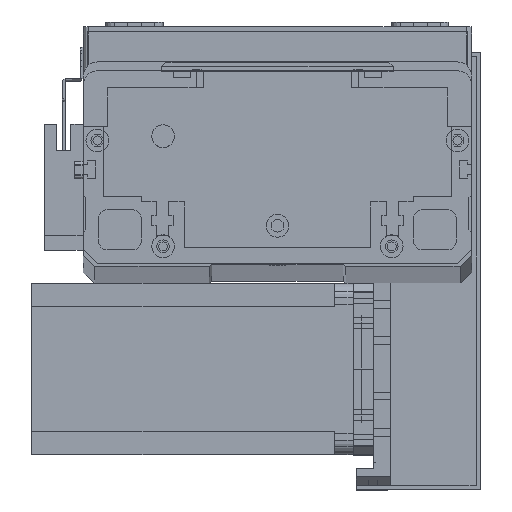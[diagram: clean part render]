
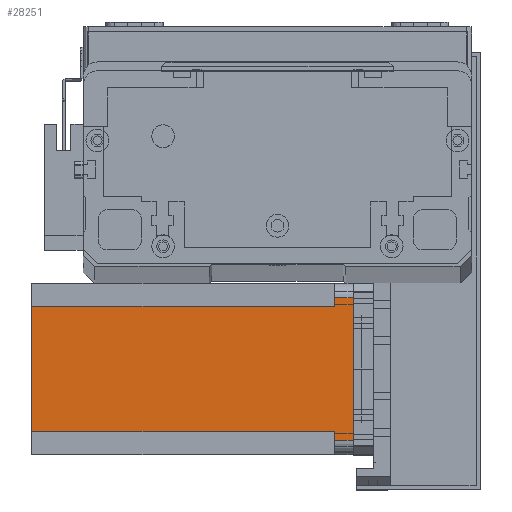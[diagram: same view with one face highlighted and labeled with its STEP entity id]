
A CAD part, top view. The second image highlights one B-rep face of the part: STEP entity #28251.
In plain terms, the highlighted planar face has unit normal (0, 0, 1) as drawn and (0, -1, 0) by its records, which use the part's own axes.
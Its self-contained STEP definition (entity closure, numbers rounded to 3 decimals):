
#254 = VECTOR ( 'NONE', #15675, 1000. ) ;
#573 = CARTESIAN_POINT ( 'NONE',  ( 5., 0., -112.5 ) ) ;
#1474 = FACE_OUTER_BOUND ( 'NONE', #23150, .T. ) ;
#1720 = CARTESIAN_POINT ( 'NONE',  ( 5., 0., 0. ) ) ;
#1776 = CARTESIAN_POINT ( 'NONE',  ( 5., 0., -6.5 ) ) ;
#1839 = VECTOR ( 'NONE', #20627, 1000. ) ;
#1898 = LINE ( 'NONE', #573, #21252 ) ;
#2209 = VERTEX_POINT ( 'NONE', #1776 ) ;
#2470 = CARTESIAN_POINT ( 'NONE',  ( 52., 0., -6.5 ) ) ;
#2825 = DIRECTION ( 'NONE',  ( 0., -1., 0. ) ) ;
#3842 = CARTESIAN_POINT ( 'NONE',  ( 55., 0., 0. ) ) ;
#4788 = LINE ( 'NONE', #28708, #24134 ) ;
#5938 = LINE ( 'NONE', #30173, #254 ) ;
#5982 = CARTESIAN_POINT ( 'NONE',  ( 8., 0., -6.5 ) ) ;
#6088 = EDGE_CURVE ( 'NONE', #27428, #2209, #1898, .T. ) ;
#6349 = CARTESIAN_POINT ( 'NONE',  ( 8., 0., -6.5 ) ) ;
#7984 = EDGE_CURVE ( 'NONE', #30353, #18080, #5938, .T. ) ;
#8070 = ORIENTED_EDGE ( 'NONE', *, *, #6088, .T. ) ;
#8272 = LINE ( 'NONE', #5982, #1839 ) ;
#9194 = DIRECTION ( 'NONE',  ( 1., 0., 0. ) ) ;
#10617 = VERTEX_POINT ( 'NONE', #2470 ) ;
#10884 = DIRECTION ( 'NONE',  ( 1., 0., 0. ) ) ;
#11363 = ORIENTED_EDGE ( 'NONE', *, *, #20074, .T. ) ;
#11839 = CARTESIAN_POINT ( 'NONE',  ( 52., 0., -112.5 ) ) ;
#12020 = VECTOR ( 'NONE', #10884, 1000. ) ;
#12626 = ORIENTED_EDGE ( 'NONE', *, *, #26775, .F. ) ;
#12686 = EDGE_CURVE ( 'NONE', #10617, #26831, #24117, .T. ) ;
#13447 = CARTESIAN_POINT ( 'NONE',  ( 8., 0., -112.5 ) ) ;
#13845 = ORIENTED_EDGE ( 'NONE', *, *, #12686, .F. ) ;
#14102 = CARTESIAN_POINT ( 'NONE',  ( 0., 0., 0. ) ) ;
#14501 = LINE ( 'NONE', #14102, #20155 ) ;
#15675 = DIRECTION ( 'NONE',  ( 0., 0., 1. ) ) ;
#17365 = CARTESIAN_POINT ( 'NONE',  ( 0., 0., -112.5 ) ) ;
#17547 = DIRECTION ( 'NONE',  ( 0., 0., -1. ) ) ;
#17668 = VECTOR ( 'NONE', #24616, 1000. ) ;
#18080 = VERTEX_POINT ( 'NONE', #6349 ) ;
#18538 = AXIS2_PLACEMENT_3D ( 'NONE', #17365, #2825, #19811 ) ;
#19811 = DIRECTION ( 'NONE',  ( 0., 0., -1. ) ) ;
#20074 = EDGE_CURVE ( 'NONE', #24200, #25408, #31077, .T. ) ;
#20155 = VECTOR ( 'NONE', #21376, 1000. ) ;
#20627 = DIRECTION ( 'NONE',  ( -1., 0., 0. ) ) ;
#20634 = CARTESIAN_POINT ( 'NONE',  ( 52., 0., -6.5 ) ) ;
#21252 = VECTOR ( 'NONE', #17547, 1000. ) ;
#21376 = DIRECTION ( 'NONE',  ( 1., 0., 0. ) ) ;
#21723 = EDGE_CURVE ( 'NONE', #10617, #24200, #24887, .T. ) ;
#22156 = PLANE ( 'NONE',  #18538 ) ;
#23150 = EDGE_LOOP ( 'NONE', ( #23254, #11363, #12626, #8070, #26574, #25310, #23924, #13845 ) ) ;
#23254 = ORIENTED_EDGE ( 'NONE', *, *, #21723, .T. ) ;
#23851 = VECTOR ( 'NONE', #26132, 1000. ) ;
#23924 = ORIENTED_EDGE ( 'NONE', *, *, #29896, .T. ) ;
#24117 = LINE ( 'NONE', #28253, #17668 ) ;
#24134 = VECTOR ( 'NONE', #9194, 1000. ) ;
#24200 = VERTEX_POINT ( 'NONE', #29788 ) ;
#24616 = DIRECTION ( 'NONE',  ( 0., 0., -1. ) ) ;
#24887 = LINE ( 'NONE', #20634, #12020 ) ;
#25310 = ORIENTED_EDGE ( 'NONE', *, *, #7984, .F. ) ;
#25408 = VERTEX_POINT ( 'NONE', #3842 ) ;
#26035 = CARTESIAN_POINT ( 'NONE',  ( 55., 0., -112.5 ) ) ;
#26132 = DIRECTION ( 'NONE',  ( 0., 0., 1. ) ) ;
#26574 = ORIENTED_EDGE ( 'NONE', *, *, #28508, .F. ) ;
#26775 = EDGE_CURVE ( 'NONE', #27428, #25408, #14501, .T. ) ;
#26831 = VERTEX_POINT ( 'NONE', #11839 ) ;
#27428 = VERTEX_POINT ( 'NONE', #1720 ) ;
#28251 = ADVANCED_FACE ( 'NONE', ( #1474 ), #22156, .T. ) ;
#28253 = CARTESIAN_POINT ( 'NONE',  ( 52., 0., -112.5 ) ) ;
#28508 = EDGE_CURVE ( 'NONE', #18080, #2209, #8272, .T. ) ;
#28708 = CARTESIAN_POINT ( 'NONE',  ( 0., 0., -112.5 ) ) ;
#29788 = CARTESIAN_POINT ( 'NONE',  ( 55., 0., -6.5 ) ) ;
#29896 = EDGE_CURVE ( 'NONE', #30353, #26831, #4788, .T. ) ;
#30173 = CARTESIAN_POINT ( 'NONE',  ( 8., 0., -112.5 ) ) ;
#30353 = VERTEX_POINT ( 'NONE', #13447 ) ;
#31077 = LINE ( 'NONE', #26035, #23851 ) ;
